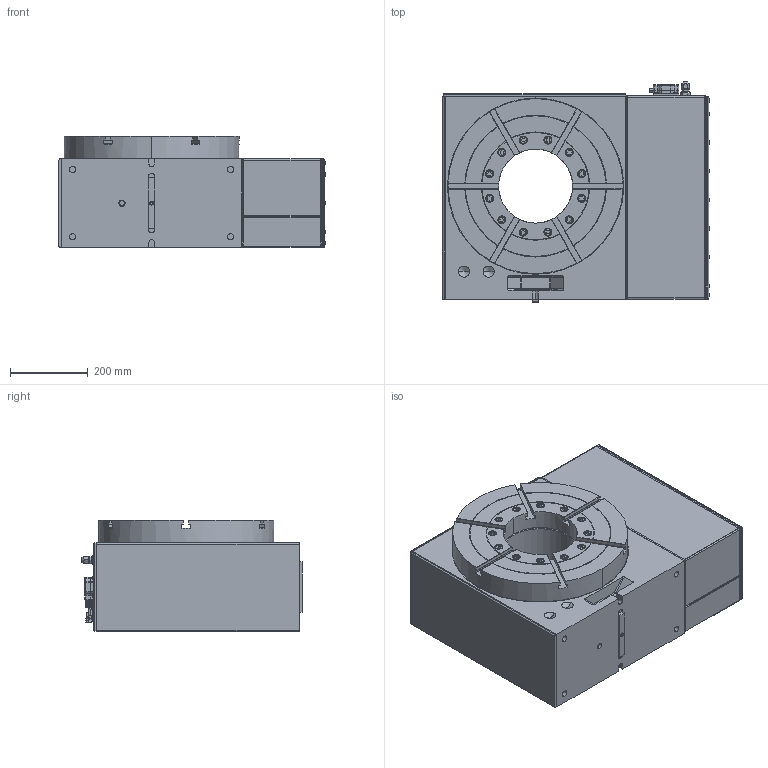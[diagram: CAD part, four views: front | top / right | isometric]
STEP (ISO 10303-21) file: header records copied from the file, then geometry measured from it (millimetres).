
FILE_DESCRIPTION (( 'STEP AP214' ), '1' );
FILE_NAME ('HRT450_STEP_10-2019.STEP', '2019-10-02T23:01:40', ( '' ), ( '' ), 'SwSTEP 2.0', 'SolidWorks 2019', '' );
FILE_SCHEMA (( 'AUTOMOTIVE_DESIGN' ));
Length unit declared in the file: inch
Products named in the file (4): HRT450_STEP_10-2019; 10000109188-1^10000109362_defeature; 10000095075-1^10000109362_defeature; Group1^10000109362_defeature
Assembly tree (3 placements, depth 2):
  HRT450_STEP_10-2019
    Group1^10000109362_defeature
    10000095075-1^10000109362_defeature
    10000109188-1^10000109362_defeature
Bounding box: 684.02 x 565.84 x 285.7 mm (x, y, z)
Volume: 45133085.7 mm3; surface area: 3917587.9 mm2
Topology: 4 solids, 4 shells, 2557 faces, 6476 edges, 4116 vertices
Faces by surface type: cylinder 1006, plane 649, sphere 570, cone 193, torus 98, bspline 41
Entity records: 97312 total; most frequent: CARTESIAN_POINT 20483, DIRECTION 13937, ORIENTED_EDGE 12908, EDGE_CURVE 6454, AXIS2_PLACEMENT_3D 5718, VERTEX_POINT 4116, CIRCLE 3196, EDGE_LOOP 2798
